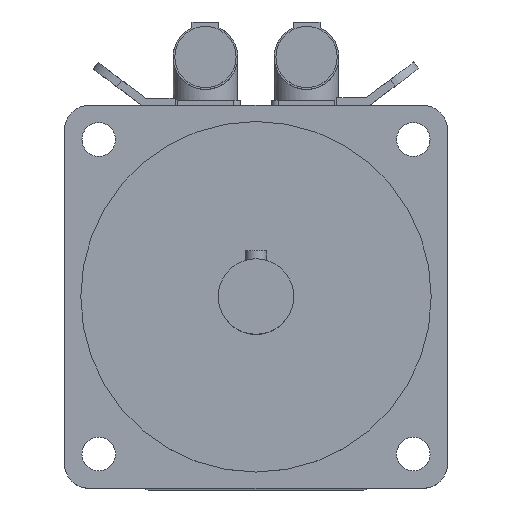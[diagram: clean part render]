
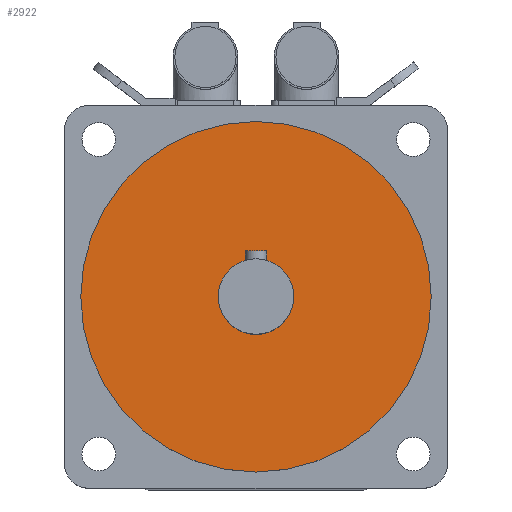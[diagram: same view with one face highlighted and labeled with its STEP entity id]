
A CAD part, top view. The second image highlights one B-rep face of the part: STEP entity #2922.
In plain terms, the highlighted planar face has unit normal (0, 0, 1).
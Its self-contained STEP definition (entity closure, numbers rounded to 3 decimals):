
#614=PLANE('',#3118);
#692=FACE_BOUND('',#926,.T.);
#742=FACE_OUTER_BOUND('',#925,.T.);
#925=EDGE_LOOP('',(#2098));
#926=EDGE_LOOP('',(#2099));
#1112=CIRCLE('',#3113,14.);
#1113=CIRCLE('',#3116,65.);
#1298=VERTEX_POINT('',#4521);
#1299=VERTEX_POINT('',#4525);
#1604=EDGE_CURVE('',#1298,#1298,#1112,.T.);
#1605=EDGE_CURVE('',#1299,#1299,#1113,.T.);
#2098=ORIENTED_EDGE('',*,*,#1605,.T.);
#2099=ORIENTED_EDGE('',*,*,#1604,.T.);
#2922=ADVANCED_FACE('',(#742,#692),#614,.T.);
#3113=AXIS2_PLACEMENT_3D('',#4522,#3545,#3546);
#3116=AXIS2_PLACEMENT_3D('',#4526,#3551,#3552);
#3118=AXIS2_PLACEMENT_3D('',#4529,#3555,#3556);
#3545=DIRECTION('center_axis',(0.,0.,-1.));
#3546=DIRECTION('ref_axis',(-1.,0.,0.));
#3551=DIRECTION('center_axis',(0.,0.,1.));
#3552=DIRECTION('ref_axis',(-1.,0.,0.));
#3555=DIRECTION('center_axis',(0.,0.,1.));
#3556=DIRECTION('ref_axis',(1.,0.,0.));
#4521=CARTESIAN_POINT('',(14.,0.,353.));
#4522=CARTESIAN_POINT('Origin',(0.,0.,353.));
#4525=CARTESIAN_POINT('',(65.,0.,353.));
#4526=CARTESIAN_POINT('Origin',(0.,0.,353.));
#4529=CARTESIAN_POINT('Origin',(0.,0.,353.));
